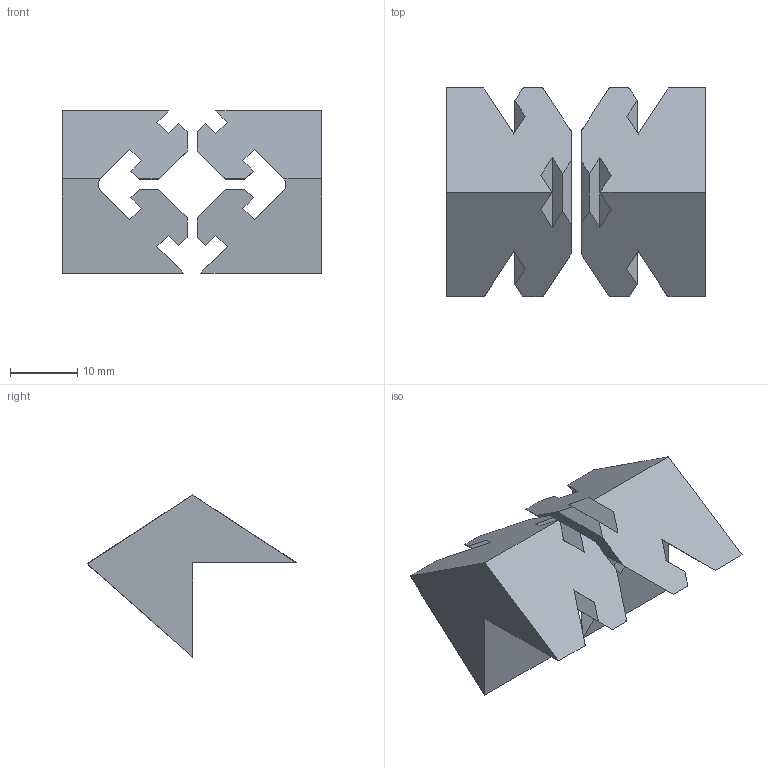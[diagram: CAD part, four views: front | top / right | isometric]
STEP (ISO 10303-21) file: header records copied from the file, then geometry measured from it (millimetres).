
FILE_DESCRIPTION(('HOOPS Exchange Step'),'2;1');
FILE_NAME('/private/var/mobile/Containers/Data/Application/90C05819-CB43-49CD-8FF6-5EA1F08262E4/tmp/export/temp_export','2026-05-22T13:26:14-05:00',('mobile'),('Shapr3D Limited'),'HOOPS Exchange 2025.9','Shapr3D','Authorized');
FILE_SCHEMA( ('AP242_MANAGED_MODEL_BASED_3D_ENGINEERING_MIM_LF {1 0 10303 442 1 1 4}') );
Length unit declared in the file: millimetre
Products named in the file (4): Gap Filler; UHG; Front; root
Assembly tree (3 placements, depth 4):
  root
    Front
      UHG
        Gap Filler
Bounding box: 38.66 x 31.25 x 24.13 mm (x, y, z)
Volume: 7456.3 mm3; surface area: 4856.6 mm2
Topology: 2 solids, 2 shells, 69 faces, 195 edges, 130 vertices
Faces by surface type: plane 63, bspline 4, cylinder 2
Entity records: 2326 total; most frequent: CARTESIAN_POINT 463, ORIENTED_EDGE 390, DIRECTION 335, EDGE_CURVE 195, VECTOR 181, LINE 181, VERTEX_POINT 130, AXIS2_PLACEMENT_3D 77
